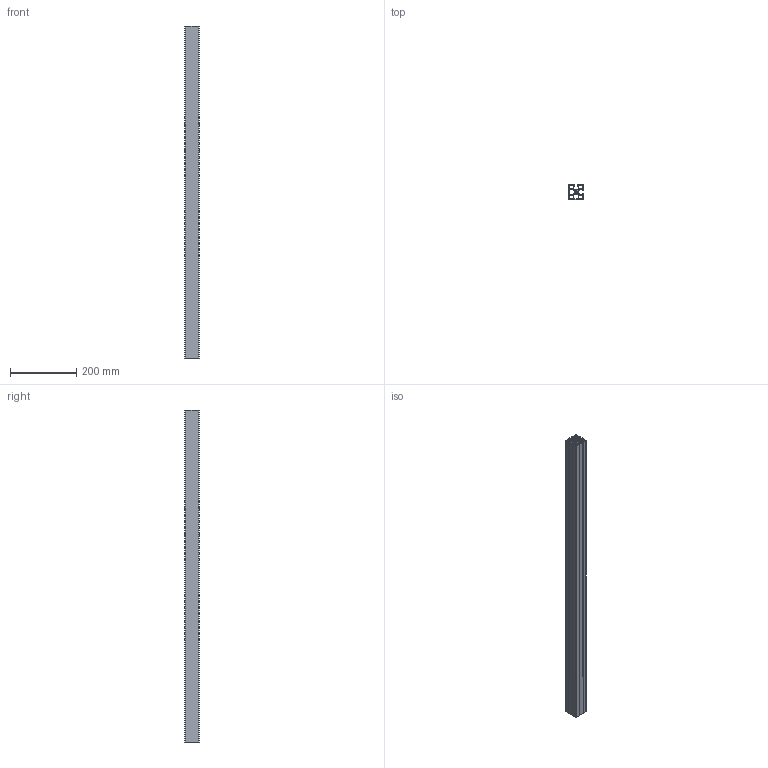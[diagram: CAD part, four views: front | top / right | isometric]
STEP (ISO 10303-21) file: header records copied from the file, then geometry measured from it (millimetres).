
FILE_DESCRIPTION (( 'STEP AP214' ), '1' );
FILE_NAME ('SA02005L.step', '2024-12-03T16:28:44', ( '' ), ( '' ), 'SwSTEP 2.0', 'SolidWorks 2023', '' );
FILE_SCHEMA (( 'AUTOMOTIVE_DESIGN' ));
Length unit declared in the file: millimetre
Products named in the file (1): SA02005L
Bounding box: 45 x 45 x 1000 mm (x, y, z)
Volume: 546943.6 mm3; surface area: 601459.4 mm2
Topology: 1 solids, 1 shells, 175 faces, 519 edges, 346 vertices
Faces by surface type: plane 126, cylinder 49
Full cylindrical faces by diameter (mm): 7.45 x1
Entity records: 5877 total; most frequent: CARTESIAN_POINT 1040, ORIENTED_EDGE 1036, DIRECTION 968, EDGE_CURVE 518, LINE 420, VECTOR 420, VERTEX_POINT 346, AXIS2_PLACEMENT_3D 274
